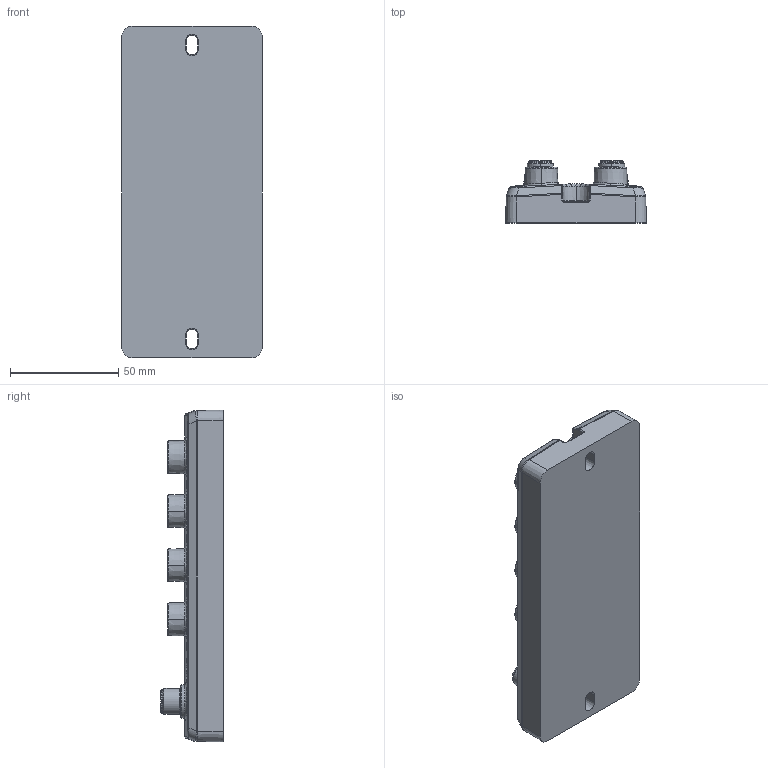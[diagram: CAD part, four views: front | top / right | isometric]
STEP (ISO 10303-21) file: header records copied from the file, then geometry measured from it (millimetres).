
FILE_DESCRIPTION((''),'2;1');
FILE_NAME('00BF31','2023-04-01T',('PC'),(''),'PRO/ENGINEER BY PARAMETRIC TECHNOLOGY CORPORATION, 2009220','PRO/ENGINEER BY PARAMETRIC TECHNOLOGY CORPORATION, 2009220','');
FILE_SCHEMA(('CONFIG_CONTROL_DESIGN'));
Products named in the file (1): 00BF31
Bounding box: 65 x 29 x 153.4 mm (x, y, z)
Volume: 174394.7 mm3; surface area: 44337.8 mm2
Topology: 1 solids, 9 shells, 2438 faces, 6368 edges, 4138 vertices
Faces by surface type: plane 1209, cylinder 653, cone 314, torus 116, extrusion 72, bspline 66, sphere 8
Entity records: 86211 total; most frequent: CARTESIAN_POINT 25906, ORIENTED_EDGE 12692, DIRECTION 12277, EDGE_CURVE 6346, AXIS2_PLACEMENT_3D 4173, VERTEX_POINT 4134, VECTOR 3931, LINE 3859
